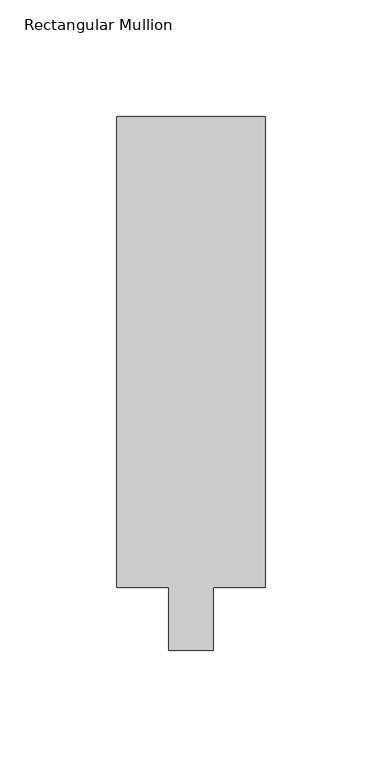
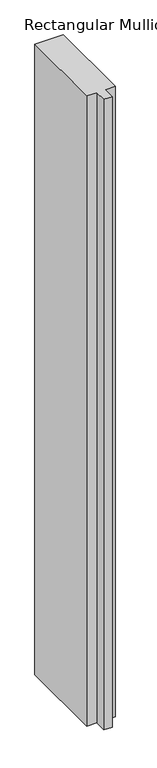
"""IFC4 building model written with IfcOpenShell, lengths in millimetres: member geometry."""

from ifc_helpers import new_model, si_unit, frame, origin, place, context, project, spatial, polyline, outline, extrude, source, transform, mapped, element, save


def rectangular_mullion_b953cf81(model_context):
    return source(origin(), model_context, "Body", "SweptSolid", [
        extrude(outline(polyline([(-63.5, 228.6), (0.0, 228.6), (0.0, 26.9875), (-22.225, 26.9875), (-22.225, 0.0), (-41.275, 0.0), (-41.275, 26.9875), (-63.5, 26.9875), (-63.5, 228.6)])), frame((0.0, 0.0, -1495.7777778), z_axis=(0.0, 0.0, 1.0), x_axis=(1.0, 0.0, 0.0)), (0.0, 0.0, 1.0), 1495.7777778),
    ])


if __name__ == "__main__":
    model = new_model("IFC4")
    model_context = context("Model", 3, world=origin())
    ifc_project = project(units=[si_unit("LENGTHUNIT", "METRE", prefix="MILLI")], contexts=[model_context])
    site = spatial("IfcSite", under=ifc_project)
    building = spatial("IfcBuilding", under=site)
    placement = place(None, origin())
    rectangular_mullion_shape = rectangular_mullion_b953cf81(model_context)
    element("IfcMember", 1, ObjectType="Rectangular Mullion : 2 1/2\" x 8\" - Capless", at=placement, inside=building, context=model_context, shape_type="MappedRepresentation", body=[
        mapped(rectangular_mullion_shape, transform((0.0, 0.0, 0.0), x_axis=(1.0, 0.0, 0.0), y_axis=(0.0, 1.0, 0.0), z_axis=(0.0, 0.0, 1.0))),
    ])
    save(model, "model.ifc")
